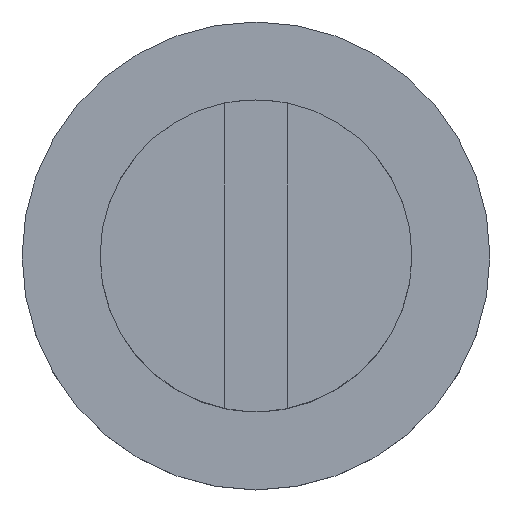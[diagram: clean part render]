
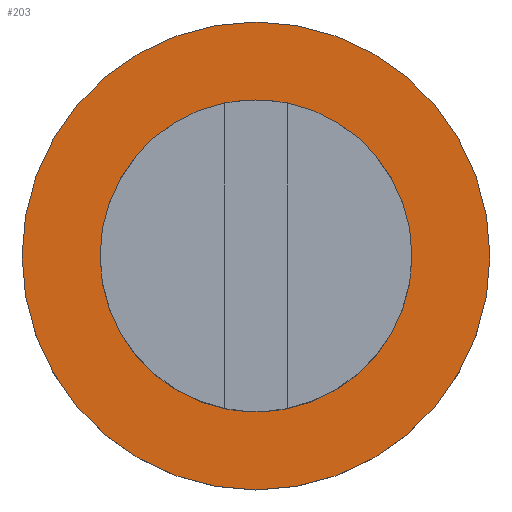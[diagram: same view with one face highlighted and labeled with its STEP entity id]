
A CAD part, top view. The second image highlights one B-rep face of the part: STEP entity #203.
In plain terms, the highlighted planar face has unit normal (0, 0, 1).
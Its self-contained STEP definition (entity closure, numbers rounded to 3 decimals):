
#24=FACE_BOUND('',#73,.T.);
#38=CIRCLE('',#229,2.);
#39=CIRCLE('',#231,3.);
#52=FACE_OUTER_BOUND('',#72,.T.);
#72=EDGE_LOOP('',(#164));
#73=EDGE_LOOP('',(#165));
#106=VERTEX_POINT('',#340);
#107=VERTEX_POINT('',#343);
#126=EDGE_CURVE('',#106,#106,#38,.T.);
#127=EDGE_CURVE('',#107,#107,#39,.T.);
#164=ORIENTED_EDGE('',*,*,#127,.F.);
#165=ORIENTED_EDGE('',*,*,#126,.F.);
#175=PLANE('',#230);
#203=ADVANCED_FACE('',(#52,#24),#175,.T.);
#229=AXIS2_PLACEMENT_3D('',#341,#287,#288);
#230=AXIS2_PLACEMENT_3D('',#342,#289,#290);
#231=AXIS2_PLACEMENT_3D('',#344,#291,#292);
#287=DIRECTION('center_axis',(0.,0.,
1.));
#288=DIRECTION('ref_axis',(0.814,-0.581,0.));
#289=DIRECTION('center_axis',(0.,0.,1.));
#290=DIRECTION('ref_axis',(1.,0.,0.));
#291=DIRECTION('center_axis',(0.,0.,
-1.));
#292=DIRECTION('ref_axis',(0.814,0.581,0.));
#340=CARTESIAN_POINT('',(2.,0.,3.3));
#341=CARTESIAN_POINT('Origin',(0.,0.,
3.3));
#342=CARTESIAN_POINT('Origin',(0.,-3.,3.3));
#343=CARTESIAN_POINT('',(3.,0.,3.3));
#344=CARTESIAN_POINT('Origin',(0.,0.,
3.3));
